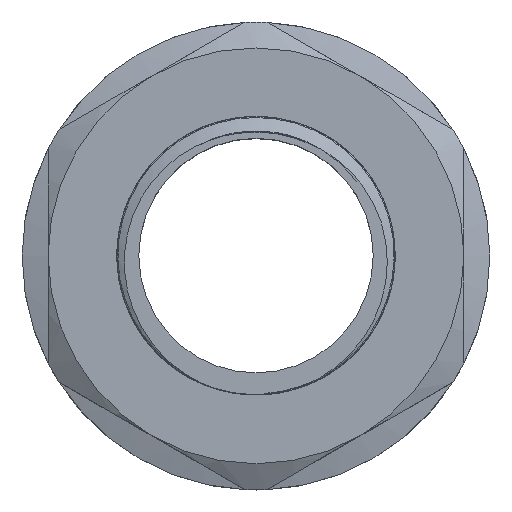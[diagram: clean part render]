
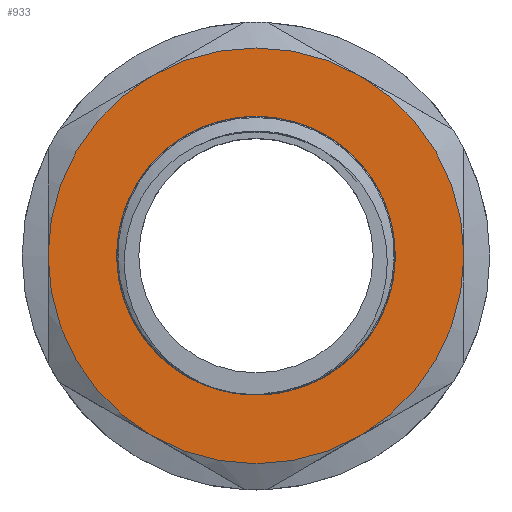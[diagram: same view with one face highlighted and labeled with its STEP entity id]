
A CAD part, top view. The second image highlights one B-rep face of the part: STEP entity #933.
In plain terms, the highlighted planar face has unit normal (0, 0, 1).
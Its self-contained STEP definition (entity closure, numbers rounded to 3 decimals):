
#54=FACE_BOUND('',#222,.T.);
#66=PLANE('',#1028);
#80=CIRCLE('',#958,12.05);
#81=CIRCLE('',#959,12.05);
#86=CIRCLE('',#976,18.);
#88=CIRCLE('',#979,18.);
#90=CIRCLE('',#982,18.);
#91=CIRCLE('',#984,18.);
#93=CIRCLE('',#987,18.);
#96=CIRCLE('',#991,18.);
#166=FACE_OUTER_BOUND('',#221,.T.);
#221=EDGE_LOOP('',(#845,#846,#847,#848,#849,#850));
#222=EDGE_LOOP('',(#851,#852));
#345=VERTEX_POINT('',#1265);
#346=VERTEX_POINT('',#1267);
#380=VERTEX_POINT('',#4358);
#382=VERTEX_POINT('',#4364);
#384=VERTEX_POINT('',#4371);
#387=VERTEX_POINT('',#4383);
#390=VERTEX_POINT('',#4398);
#393=VERTEX_POINT('',#4410);
#442=EDGE_CURVE('',#345,#346,#80,.T.);
#443=EDGE_CURVE('',#346,#345,#81,.T.);
#497=EDGE_CURVE('',#380,#382,#86,.T.);
#501=EDGE_CURVE('',#384,#380,#88,.T.);
#505=EDGE_CURVE('',#387,#384,#90,.T.);
#507=EDGE_CURVE('',#390,#387,#91,.T.);
#511=EDGE_CURVE('',#393,#390,#93,.T.);
#516=EDGE_CURVE('',#382,#393,#96,.T.);
#845=ORIENTED_EDGE('',*,*,#516,.T.);
#846=ORIENTED_EDGE('',*,*,#511,.T.);
#847=ORIENTED_EDGE('',*,*,#507,.T.);
#848=ORIENTED_EDGE('',*,*,#505,.T.);
#849=ORIENTED_EDGE('',*,*,#501,.T.);
#850=ORIENTED_EDGE('',*,*,#497,.T.);
#851=ORIENTED_EDGE('',*,*,#443,.F.);
#852=ORIENTED_EDGE('',*,*,#442,.F.);
#933=ADVANCED_FACE('',(#166,#54),#66,.T.);
#958=AXIS2_PLACEMENT_3D('',#1268,#1043,#1044);
#959=AXIS2_PLACEMENT_3D('',#1269,#1045,#1046);
#976=AXIS2_PLACEMENT_3D('',#4368,#1088,#1089);
#979=AXIS2_PLACEMENT_3D('',#4380,#1094,#1095);
#982=AXIS2_PLACEMENT_3D('',#4392,#1100,#1101);
#984=AXIS2_PLACEMENT_3D('',#4399,#1104,#1105);
#987=AXIS2_PLACEMENT_3D('',#4411,#1110,#1111);
#991=AXIS2_PLACEMENT_3D('',#4424,#1118,#1119);
#1028=AXIS2_PLACEMENT_3D('',#7600,#1208,#1209);
#1043=DIRECTION('center_axis',(0.,0.,1.));
#1044=DIRECTION('ref_axis',(1.,0.,0.));
#1045=DIRECTION('center_axis',(0.,0.,1.));
#1046=DIRECTION('ref_axis',(1.,0.,0.));
#1088=DIRECTION('center_axis',(0.,0.,1.));
#1089=DIRECTION('ref_axis',(0.,1.,0.));
#1094=DIRECTION('center_axis',(0.,0.,1.));
#1095=DIRECTION('ref_axis',(0.,1.,0.));
#1100=DIRECTION('center_axis',(0.,0.,1.));
#1101=DIRECTION('ref_axis',(0.,1.,0.));
#1104=DIRECTION('center_axis',(0.,0.,1.));
#1105=DIRECTION('ref_axis',(0.,1.,0.));
#1110=DIRECTION('center_axis',(0.,0.,1.));
#1111=DIRECTION('ref_axis',(0.,1.,0.));
#1118=DIRECTION('center_axis',(0.,0.,1.));
#1119=DIRECTION('ref_axis',(0.,1.,0.));
#1208=DIRECTION('center_axis',(0.,0.,1.));
#1209=DIRECTION('ref_axis',(1.,0.,0.));
#1265=CARTESIAN_POINT('',(0.,12.05,15.));
#1267=CARTESIAN_POINT('',(0.,-12.05,15.));
#1268=CARTESIAN_POINT('Origin',(0.,0.,15.));
#1269=CARTESIAN_POINT('Origin',(0.,0.,15.));
#4358=CARTESIAN_POINT('',(9.,-15.588,15.));
#4364=CARTESIAN_POINT('',(18.,0.,15.));
#4368=CARTESIAN_POINT('Origin',(0.,0.,15.));
#4371=CARTESIAN_POINT('',(-9.,-15.588,15.));
#4380=CARTESIAN_POINT('Origin',(0.,0.,15.));
#4383=CARTESIAN_POINT('',(-18.,0.,15.));
#4392=CARTESIAN_POINT('Origin',(0.,0.,15.));
#4398=CARTESIAN_POINT('',(-9.,15.588,15.));
#4399=CARTESIAN_POINT('Origin',(0.,0.,15.));
#4410=CARTESIAN_POINT('',(9.,15.588,15.));
#4411=CARTESIAN_POINT('Origin',(0.,0.,15.));
#4424=CARTESIAN_POINT('Origin',(0.,0.,15.));
#7600=CARTESIAN_POINT('Origin',(0.,-12.05,15.));
